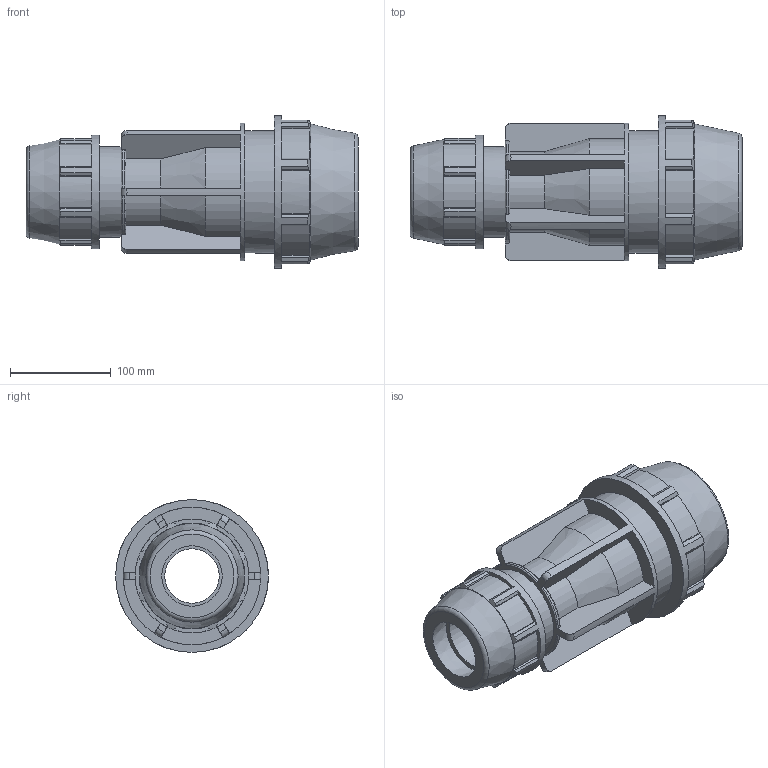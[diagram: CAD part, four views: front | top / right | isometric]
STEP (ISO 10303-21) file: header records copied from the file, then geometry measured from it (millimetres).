
FILE_DESCRIPTION(/* description */ ('PLASSON REDUCING COUPLER 3'''' - 2'''''),/* implementation_level */ '2;1');
FILE_NAME(/* name */ 'C:\Dropbox\KIMPROJECTS-Inventor 2019\99-16-3568-Processing Inch\ASTM Compression 2021\0711M0\0711M0 3-2 custom.ipt.stp',/* time_stamp */ '2021-08-26T12:32:23+03:00',/* author */ ('KIM'),/* organization */ (''),/* preprocessor_version */ 'ST-DEVELOPER v17.2',/* originating_system */ 'Autodesk Inventor 2019',/* authorisation */ '');
FILE_SCHEMA (('AUTOMOTIVE_DESIGN { 1 0 10303 214 3 1 1 }'));
Length unit declared in the file: inch
Products named in the file (1): 0711M0 3-2 custom
Bounding box: 330 x 151.89 x 151.89 mm (x, y, z)
Volume: 1778523.5 mm3; surface area: 268160.1 mm2
Topology: 1 solids, 1 shells, 218 faces, 650 edges, 441 vertices
Faces by surface type: plane 143, cylinder 47, cone 14, torus 14
Full cylindrical faces by diameter (mm): 60.1 x1, 88.7 x1, 90.424 x1, 113.03 x1, 121.514 x1, 136.703 x1, 151.892 x1
Entity records: 7796 total; most frequent: CARTESIAN_POINT 1688, ORIENTED_EDGE 1300, DIRECTION 1189, EDGE_CURVE 650, VERTEX_POINT 441, AXIS2_PLACEMENT_3D 419, LINE 351, VECTOR 351
